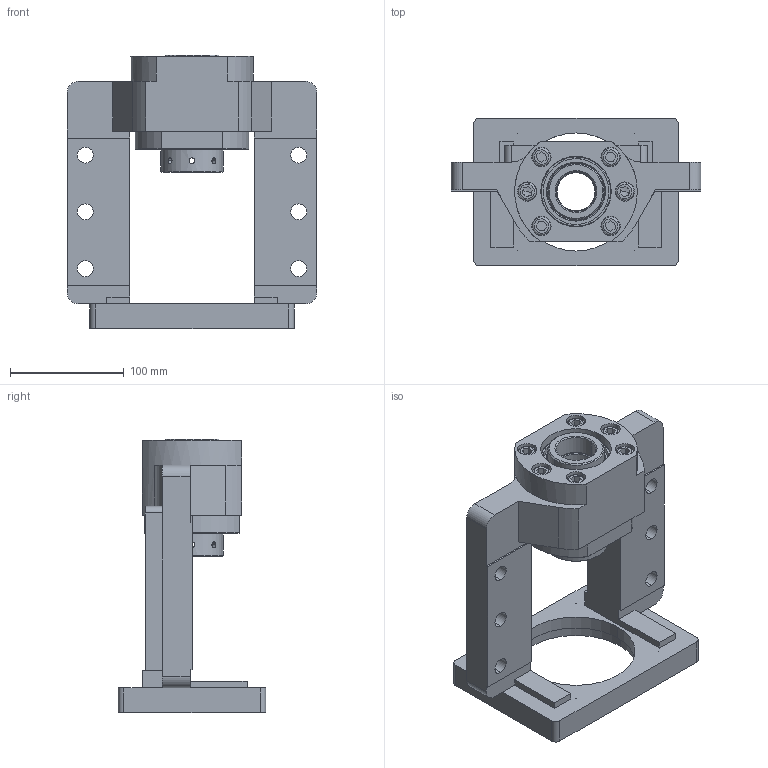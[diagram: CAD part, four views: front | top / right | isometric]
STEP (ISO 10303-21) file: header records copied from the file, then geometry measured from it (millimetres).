
FILE_DESCRIPTION (( 'STEP AP203' ), '1' );
FILE_NAME ('MBCK35L-G²Õ¦X¥ó.STEP', '2025-09-18T03:36:05', ( '' ), ( '' ), 'SwSTEP 2.0', 'SolidWorks 2018', '' );
FILE_SCHEMA (( 'CONFIG_CONTROL_DESIGN' ));
Length unit declared in the file: millimetre
Products named in the file (2): MBCK35L-G組合件
Bounding box: 220 x 130 x 241 mm (x, y, z)
Surface area: 224140.6 mm2 (no closed solid volume)
Topology: 0 solids, 34 shells, 352 faces, 977 edges, 651 vertices
Faces by surface type: cylinder 126, plane 126, cone 68, torus 20, bspline 12
Entity records: 30459 total; most frequent: CARTESIAN_POINT 21364, DIRECTION 1934, ORIENTED_EDGE 1695, EDGE_CURVE 965, AXIS2_PLACEMENT_3D 759, VERTEX_POINT 651, EDGE_LOOP 430, CIRCLE 417
